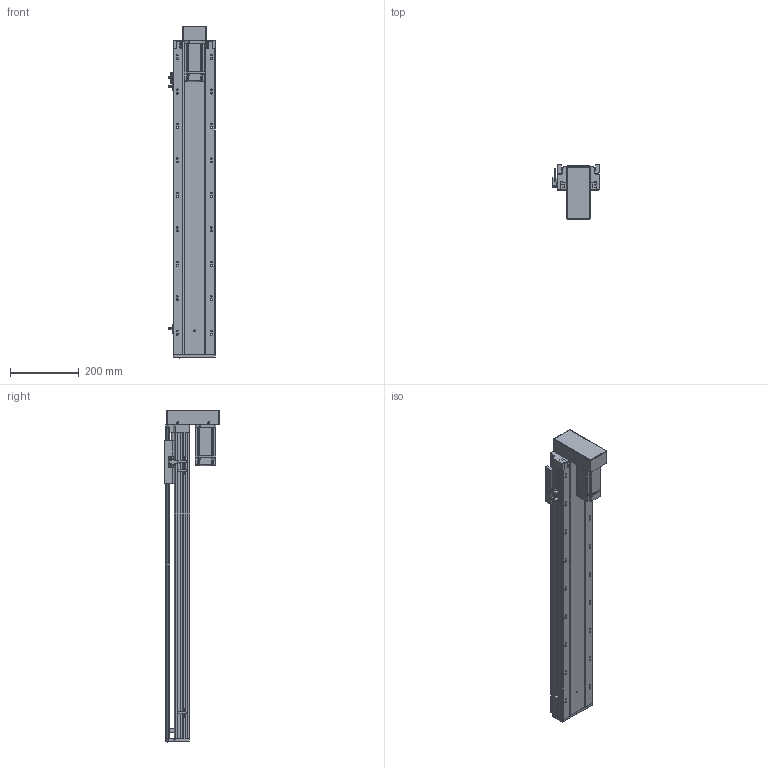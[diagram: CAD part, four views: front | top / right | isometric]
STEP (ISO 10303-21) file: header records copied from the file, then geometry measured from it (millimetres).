
FILE_DESCRIPTION (( 'STEP AP203' ), '1' );
FILE_NAME ('RY120-L2020-300-BK.SLDASM_700.step', '2021-03-12T06:57:55', ( '盈信电脑' ), ( '东莞市道滘镇水果街19号' ), 'SwSTEP 2.0', 'SolidWorks 2012', '' );
FILE_SCHEMA (( 'CONFIG_CONTROL_DESIGN' ));
Products named in the file (15): RY120-300-BK蛌殏倰第菁釱_700; RY120-L2020-300-BK.SLDASM_700; RY120-400W萇儂傷-BK; 侂狟400W侜督萇儂; RY120下折折电机安装板; 15; RY120狟殏萇儂欶; RY120转拆电端丝杆支撑座(20丝杆，7002轴承); RY120外置感应片(140共用）; 滅袉蝶18-24; 滅袉蝶18-10; RY120臏賑輸(20蹟譫); RY120綴裔啣; 覜茼ん672; RY120-300-BK蛌殏倰第奻裔啣_700
Assembly tree (17 placements, depth 4):
  RY120-L2020-300-BK.SLDASM_700
    RY120-300-BK蛌殏倰第菁釱_700
    RY120-300-BK蛌殏倰第奻裔啣_700
    RY120臏賑輸(20蹟譫)
    RY120綴裔啣
    覜茼ん672  x3
    滅袉蝶18-10
    滅袉蝶18-24  x2
    RY120外置感应片(140共用）
    RY120转拆电端丝杆支撑座(20丝杆，7002轴承)
    RY120-400W萇儂傷-BK
      侂狟400W侜督萇儂
        15
      RY120狟殏萇儂欶
      RY120下折折电机安装板
Bounding box: 135.7 x 159.5 x 964 mm (x, y, z)
Volume: 2846649.6 mm3; surface area: 1037647.4 mm2
Topology: 16 solids, 16 shells, 2516 faces, 6939 edges, 4448 vertices
Faces by surface type: plane 1236, cylinder 956, cone 219, bspline 105
Entity records: 84147 total; most frequent: CARTESIAN_POINT 24067, ORIENTED_EDGE 12582, DIRECTION 11535, EDGE_CURVE 6291, VERTEX_POINT 4116, AXIS2_PLACEMENT_3D 3845, LINE 3845, VECTOR 3845
